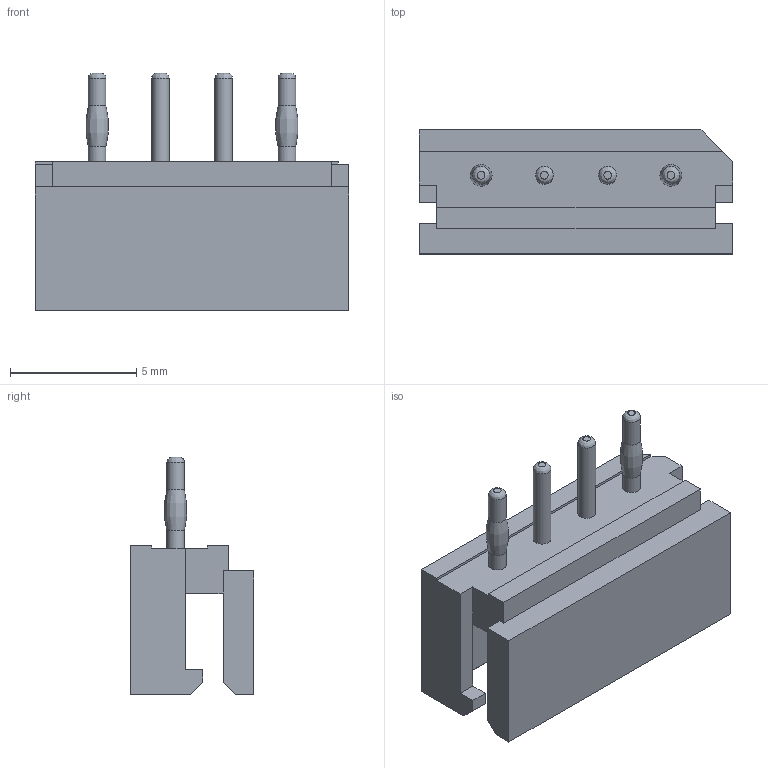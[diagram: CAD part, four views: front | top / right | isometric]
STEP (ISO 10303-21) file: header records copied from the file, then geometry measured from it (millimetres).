
FILE_DESCRIPTION(/* description */ (''),/* implementation_level */ '2;1');
FILE_NAME(/* name */ '99990988wbm000_01_214.stp',/* time_stamp */ '2022-03-11T18:18:14+06:00',/* author */ (''),/* organization */ (''),/* preprocessor_version */ 'ST-DEVELOPER v16.7',/* originating_system */ 'SIEMENS PLM Software NX 1919',/* authorisation */ '');
FILE_SCHEMA (('AUTOMOTIVE_DESIGN { 1 0 10303 214 3 1 1 1 }'));
Length unit declared in the file: millimetre
Products named in the file (1): 99990988wbm000_01
Bounding box: 12.4 x 4.9 x 9.4 mm (x, y, z)
Volume: 190.2 mm3; surface area: 483.1 mm2
Topology: 1 solids, 1 shells, 76 faces, 194 edges, 128 vertices
Faces by surface type: plane 60, cylinder 10, bspline 6
Full cylindrical faces by diameter (mm): 0.7 x10
Entity records: 2262 total; most frequent: CARTESIAN_POINT 525, ORIENTED_EDGE 336, DIRECTION 334, EDGE_CURVE 168, LINE 144, VECTOR 144, VERTEX_POINT 118, EDGE_LOOP 100
